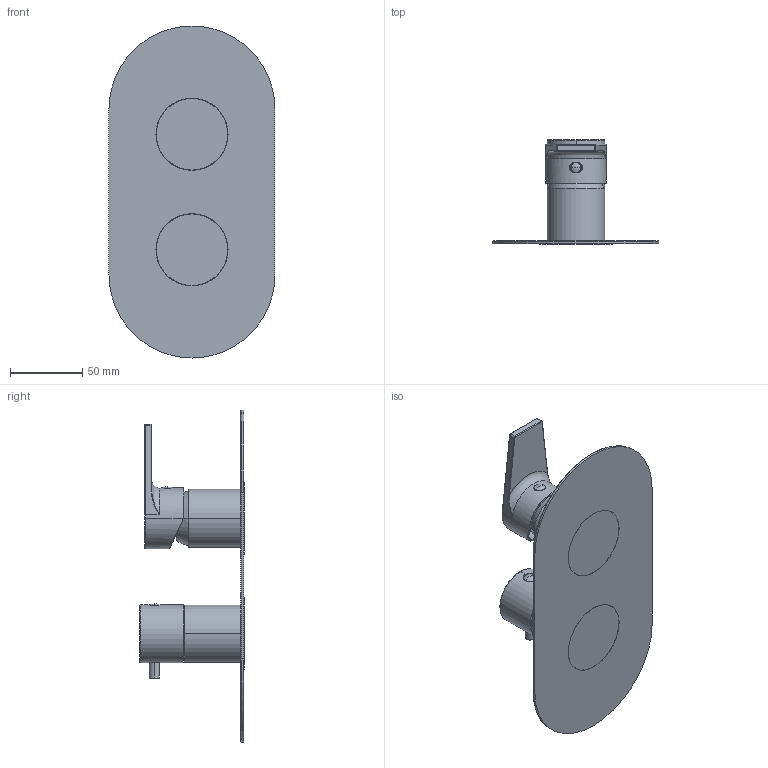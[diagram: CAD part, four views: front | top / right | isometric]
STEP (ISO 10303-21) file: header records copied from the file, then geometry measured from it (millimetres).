
FILE_DESCRIPTION((''),'2;1');
FILE_NAME('73513V3_SW0001','2020-09-24T13:51:07',('volponeff'),(''),'CREO PARAMETRIC BY PTC INC, 2018100','CREO PARAMETRIC BY PTC INC, 2018100','');
FILE_SCHEMA(('CONFIG_CONTROL_DESIGN'));
Length unit declared in the file: millimetre
Products named in the file (1): 73513V3_SW0001
Bounding box: 115 x 72.2 x 230 mm (x, y, z)
Volume: 171925.2 mm3; surface area: 85029.7 mm2
Topology: 1 solids, 3 shells, 389 faces, 981 edges, 624 vertices
Faces by surface type: plane 193, cylinder 57, extrusion 54, torus 29, cone 29, bspline 23, sphere 4
Entity records: 14132 total; most frequent: CARTESIAN_POINT 5020, ORIENTED_EDGE 1950, DIRECTION 1706, EDGE_CURVE 975, VECTOR 632, VERTEX_POINT 624, LINE 578, AXIS2_PLACEMENT_3D 537
